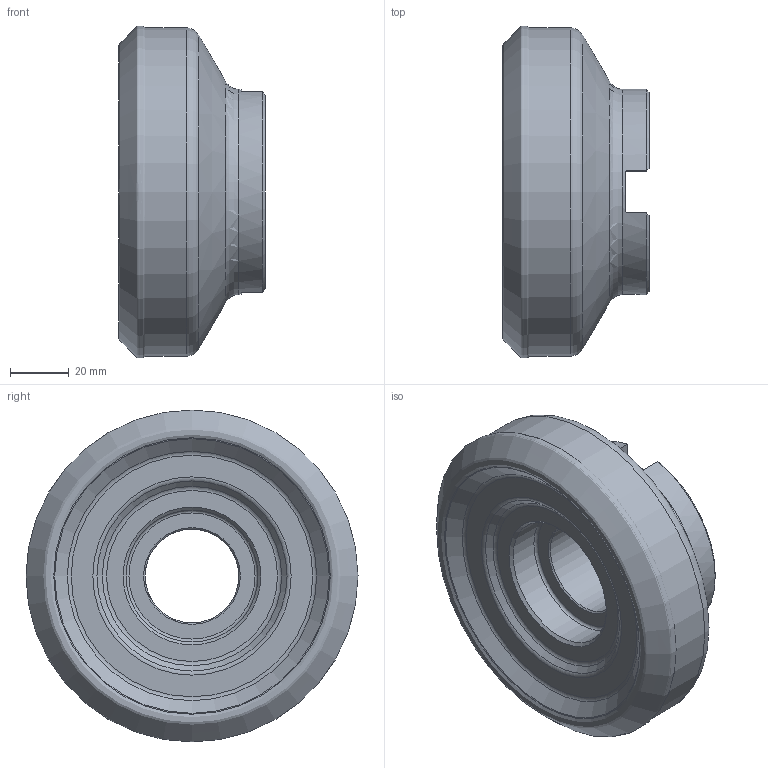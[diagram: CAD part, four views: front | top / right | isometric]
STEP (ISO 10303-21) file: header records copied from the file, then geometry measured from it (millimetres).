
FILE_DESCRIPTION(/* description */ (''),/* implementation_level */ '2;1');
FILE_NAME(/* name */ 'Stp.stp',/* time_stamp */ '2021-07-12T00:11:21+08:00',/* author */ (''),/* organization */ (''),/* preprocessor_version */ 'ST-DEVELOPER v16.7',/* originating_system */ 'SIEMENS PLM Software NX 12.0',/* authorisation */ '');
FILE_SCHEMA (('AUTOMOTIVE_DESIGN { 1 0 10303 214 3 1 1 1 }'));
Length unit declared in the file: millimetre
Products named in the file (2): SEET12T3-CF; FMA01-100-B32-SE12-07_S
Assembly tree (7 placements, depth 2):
  FMA01-100-B32-SE12-07_S
    SEET12T3-CF  x7
Bounding box: 50.01 x 113.26 x 113.25 mm (x, y, z)
Volume: 635524.5 mm3; surface area: 133121.4 mm2
Topology: 8 solids, 8 shells, 60 faces, 143 edges, 87 vertices
Faces by surface type: plane 18, cone 13, torus 13, cylinder 9, revolution 7
Full cylindrical faces by diameter (mm): 32 x1, 45 x1, 70 x1, 107.805 x1, 112 x1
Entity records: 2190 total; most frequent: CARTESIAN_POINT 902, DIRECTION 237, ORIENTED_EDGE 182, AXIS2_PLACEMENT_3D 103, EDGE_CURVE 91, EDGE_LOOP 80, VERTEX_POINT 74, FACE_BOUND 63
